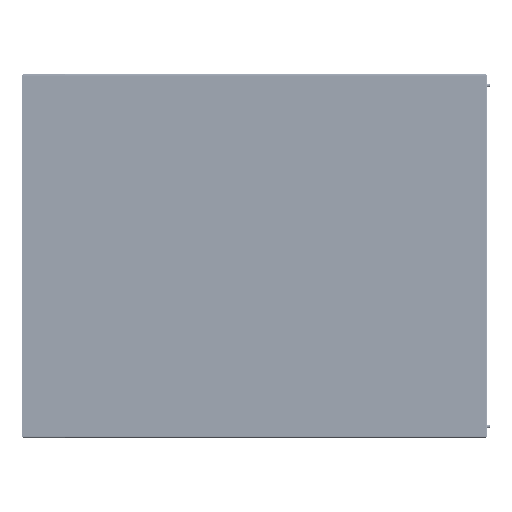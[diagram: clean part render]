
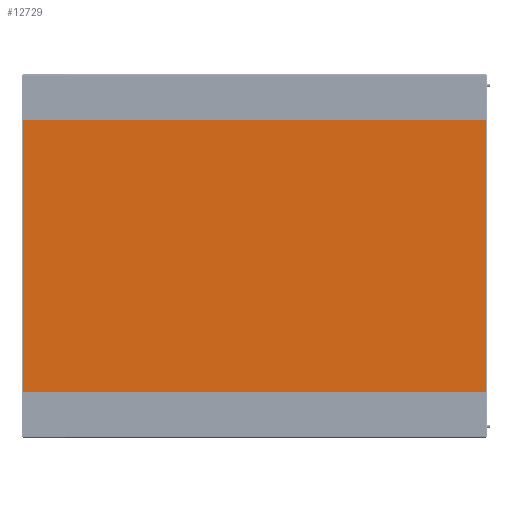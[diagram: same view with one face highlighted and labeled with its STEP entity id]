
A CAD part, left-side view. The second image highlights one B-rep face of the part: STEP entity #12729.
In plain terms, the highlighted planar face has unit normal (-1, 0, 0) as drawn and (0, 1, 0) by its records, which use the part's own axes.
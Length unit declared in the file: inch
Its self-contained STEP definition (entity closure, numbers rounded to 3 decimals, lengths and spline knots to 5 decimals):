
#12390=CARTESIAN_POINT('',(22.47,0.,35.866));
#12391=DIRECTION('',(0.,1.,0.));
#12392=DIRECTION('',(0.,0.,1.));
#12393=AXIS2_PLACEMENT_3D('',#12390,#12391,#12392);
#12398=CARTESIAN_POINT('',(-22.47,0.,35.866));
#12399=DIRECTION('',(0.,1.,0.));
#12400=DIRECTION('',(-1.,0.,0.));
#12401=AXIS2_PLACEMENT_3D('',#12398,#12399,#12400);
#12406=CARTESIAN_POINT('',(-22.47,0.,-40.65029));
#12407=DIRECTION('',(0.,1.,0.));
#12408=DIRECTION('',(0.,0.,-1.));
#12409=AXIS2_PLACEMENT_3D('',#12406,#12407,#12408);
#12414=DIRECTION('',(-1.,0.,0.));
#12415=VECTOR('',#12414,44.94);
#12416=CARTESIAN_POINT('',(22.47,0.,-40.68029));
#12417=LINE('',#12416,#12415);
#12421=CARTESIAN_POINT('',(22.47,0.,-40.65029));
#12422=DIRECTION('',(0.,1.,0.));
#12423=DIRECTION('',(1.,0.,0.));
#12424=AXIS2_PLACEMENT_3D('',#12421,#12422,#12423);
#12436=DIRECTION('',(0.,0.,-1.));
#12437=VECTOR('',#12436,76.51629);
#12438=CARTESIAN_POINT('',(22.5,0.,35.866));
#12439=LINE('',#12438,#12437);
#12492=DIRECTION('',(0.,0.,1.));
#12493=VECTOR('',#12492,76.51629);
#12494=CARTESIAN_POINT('',(-22.5,0.,-40.65029));
#12495=LINE('',#12494,#12493);
#12520=DIRECTION('',(-1.,0.,0.));
#12521=VECTOR('',#12520,44.94);
#12522=CARTESIAN_POINT('',(22.47,0.,35.896));
#12523=LINE('',#12522,#12521);
#12658=CARTESIAN_POINT('',(22.47,0.,35.896));
#12659=CARTESIAN_POINT('',(22.5,0.,35.866));
#12660=VERTEX_POINT('',#12658);
#12661=VERTEX_POINT('',#12659);
#12666=CARTESIAN_POINT('',(-22.5,0.,35.866));
#12667=CARTESIAN_POINT('',(-22.47,0.,35.896));
#12668=VERTEX_POINT('',#12666);
#12669=VERTEX_POINT('',#12667);
#12674=CARTESIAN_POINT('',(-22.5,0.,-40.65029));
#12675=VERTEX_POINT('',#12674);
#12676=CARTESIAN_POINT('',(22.5,0.,-40.65029));
#12677=VERTEX_POINT('',#12676);
#12682=CARTESIAN_POINT('',(-22.47,0.,-40.68029));
#12683=VERTEX_POINT('',#12682);
#12686=CARTESIAN_POINT('',(22.47,0.,-40.68029));
#12687=VERTEX_POINT('',#12686);
#12706=CARTESIAN_POINT('',(22.5,0.,35.896));
#12707=DIRECTION('',(0.,1.,0.));
#12708=DIRECTION('',(-1.,0.,0.));
#12709=AXIS2_PLACEMENT_3D('',#12706,#12707,#12708);
#12710=PLANE('',#12709);
#12712=ORIENTED_EDGE('',*,*,#12711,.F.);
#12714=ORIENTED_EDGE('',*,*,#12713,.T.);
#12716=ORIENTED_EDGE('',*,*,#12715,.F.);
#12718=ORIENTED_EDGE('',*,*,#12717,.F.);
#12720=ORIENTED_EDGE('',*,*,#12719,.F.);
#12722=ORIENTED_EDGE('',*,*,#12721,.F.);
#12724=ORIENTED_EDGE('',*,*,#12723,.F.);
#12726=ORIENTED_EDGE('',*,*,#12725,.F.);
#12727=EDGE_LOOP('',(#12712,#12714,#12716,#12718,#12720,#12722,#12724,#12726));
#12728=FACE_OUTER_BOUND('',#12727,.F.);
#12394=CIRCLE('',#12393,0.03);
#12402=CIRCLE('',#12401,0.03);
#12410=CIRCLE('',#12409,0.03);
#12425=CIRCLE('',#12424,0.03);
#12711=EDGE_CURVE('',#12660,#12661,#12394,.T.);
#12713=EDGE_CURVE('',#12660,#12669,#12523,.T.);
#12715=EDGE_CURVE('',#12668,#12669,#12402,.T.);
#12717=EDGE_CURVE('',#12675,#12668,#12495,.T.);
#12719=EDGE_CURVE('',#12683,#12675,#12410,.T.);
#12721=EDGE_CURVE('',#12687,#12683,#12417,.T.);
#12723=EDGE_CURVE('',#12677,#12687,#12425,.T.);
#12725=EDGE_CURVE('',#12661,#12677,#12439,.T.);
#12729=ADVANCED_FACE('',(#12728),#12710,.T.);
